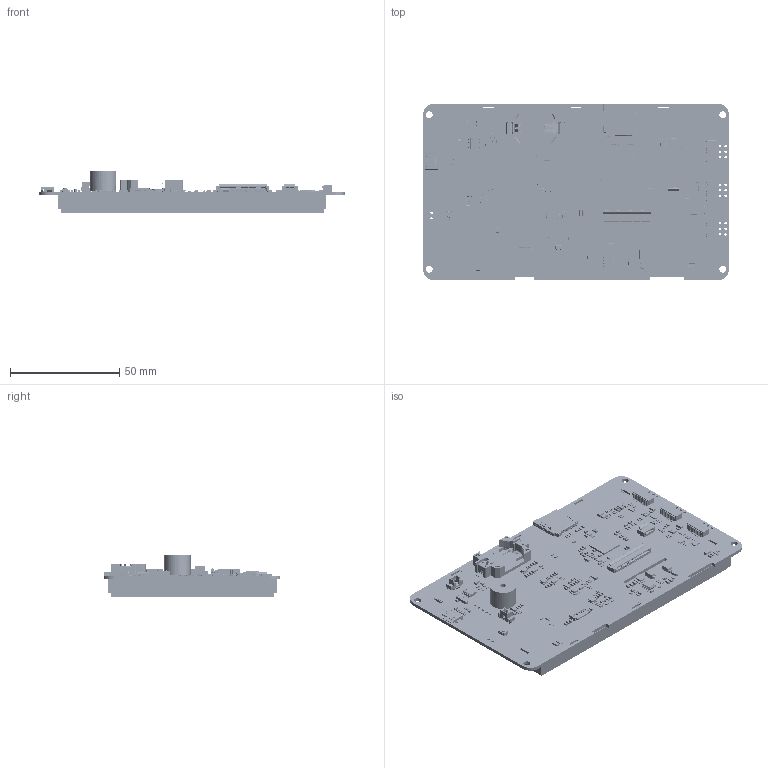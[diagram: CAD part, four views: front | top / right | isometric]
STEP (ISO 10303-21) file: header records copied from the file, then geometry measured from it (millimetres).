
FILE_DESCRIPTION(/* description */ ('Open CASCADE Model'),/* implementation_level */ '2;1');
FILE_NAME(/* name */ 'P8480-050T-L0101.stp',/* time_stamp */ '2025-10-24T15:25:04-03:00',/* author */ ('Reservaa'),/* organization */ ('Open CASCADE'),/* preprocessor_version */ 'ST-DEVELOPER v20',/* originating_system */ 'Autodesk Inventor 2024',/* authorisation */ 'Unknown');
FILE_SCHEMA (('AUTOMOTIVE_DESIGN { 1 0 10303 214 3 1 1 }'));
Products named in the file (290): PCB; Board; Open CASCADE STEP translator 7.5 3.1.1; R18; R17; R16; C43; C42; C41; C11; LCD1; Hyper_LCD_TK_5'; R96; R95; R94; C92; USB1; USB20_MICRO_SMD_W; Open CASCADE STEP translator 7.5 3.14.1.1; Open CASCADE STEP translator 7.5 3.14.1.2; Open CASCADE STEP translator 7.5 3.14.1.3; Open CASCADE STEP translator 7.5 3.14.1.4; Open CASCADE STEP translator 7.5 3.14.1.5; Open CASCADE STEP translator 7.5 3.14.1.6; Open CASCADE STEP translator 7.5 3.14.1.7; R86; R68; R67; R66; R65; R64; R63; R37; R36; BUZZER1; Buzzi_1209; U10; User Library-CSYTAL-MC146; R93; R92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
Assembly tree (497 placements, depth 4):
  PCB
    Board
      Open CASCADE STEP translator 7.5 3.1.1
    R18
      0603R
    R17
      0603R
    R16
      0603R
    C43
      Capacitor 0603 SMD
        User Library-cap0603_cap0603_body_??
        User Library-cap0603_pad_0603_??
    C42
      Capacitor 0603 SMD
        User Library-cap0603_cap0603_body_??
        User Library-cap0603_pad_0603_??
    C41
      Capacitor 0603 SMD
        User Library-cap0603_cap0603_body_??
        User Library-cap0603_pad_0603_??
    C11
      Capacitor 0603 SMD
        User Library-cap0603_cap0603_body_??
        User Library-cap0603_pad_0603_??
    LCD1
    R96
      0603R
    R95
      0603R
    R94
      0603R
    C92
      Capacitor 0603 SMD
        User Library-cap0603_cap0603_body_??
        User Library-cap0603_pad_0603_??
    USB1
      USB20_MICRO_SMD_W
        Open CASCADE STEP translator 7.5 3.14.1.1
        Open CASCADE STEP translator 7.5 3.14.1.2
        Open CASCADE STEP translator 7.5 3.14.1.3
        Open CASCADE STEP translator 7.5 3.14.1.4
        Open CASCADE STEP translator 7.5 3.14.1.5
        Open CASCADE STEP translator 7.5 3.14.1.6
        Open CASCADE STEP translator 7.5 3.14.1.7
    R86
      0603R
    R68
      0603R
    R67
      0603R
    R66
      0603R
    R65
      0603R
    R64
      0603R
    R63
      0603R
    R37
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Bounding box: 140 x 80.9 x 18.96 mm (x, y, z)
Volume: 94337.7 mm3; surface area: 73374.8 mm2
Topology: 674 solids, 674 shells, 24386 faces, 63379 edges, 40169 vertices
Faces by surface type: plane 15556, cylinder 4545, bspline 2868, sphere 988, torus 402, cone 27
Full cylindrical faces by diameter (mm): 0.17 x18, 0.254 x72, 0.3 x1, 0.6 x2, 0.65 x2, 0.8 x3, 1 x3, 1.1 x25, 1.2 x2, 1.5 x7, 1.8 x1, 2 x5, 2.5 x1, 2.83 x3, 3.2 x4, 7.517 x1, 12 x1
Entity records: 338564 total; most frequent: CARTESIAN_POINT 89232, ORIENTED_EDGE 50850, DIRECTION 45544, EDGE_CURVE 25425, LINE 21090, VECTOR 21090, VERTEX_POINT 16639, AXIS2_PLACEMENT_3D 12227
